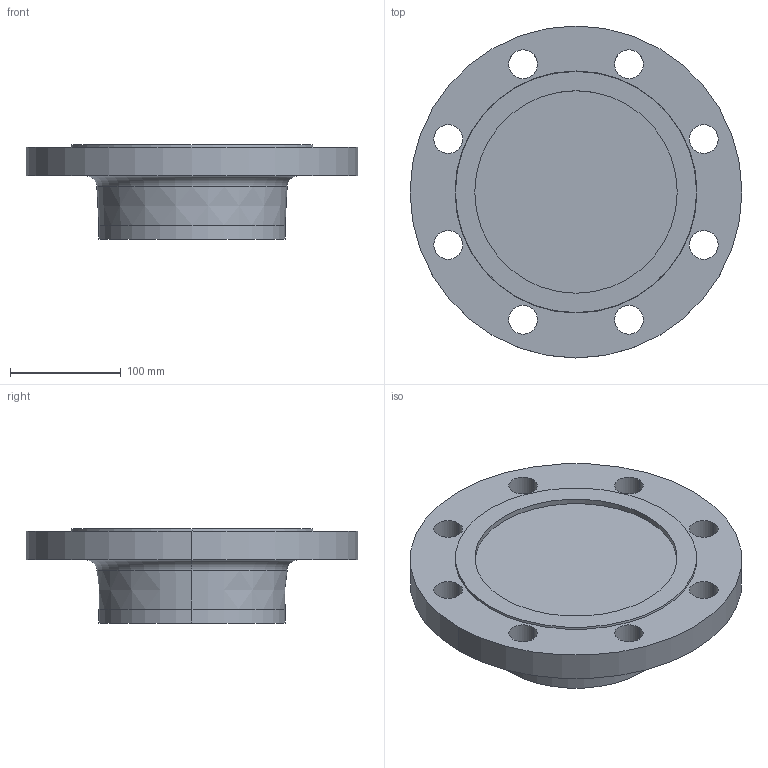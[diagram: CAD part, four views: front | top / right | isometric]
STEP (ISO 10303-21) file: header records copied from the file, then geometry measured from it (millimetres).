
FILE_DESCRIPTION (( 'STEP AP214' ), '1' );
FILE_NAME ('PN40 DN150 Type 21(ii) - Type G Face.STEP', '2019-01-02T23:05:37', ( '' ), ( '' ), 'SwSTEP 2.0', 'SolidWorks 2019', '' );
FILE_SCHEMA (( 'AUTOMOTIVE_DESIGN' ));
Length unit declared in the file: millimetre
Products named in the file (1): PN40 DN150 Type 21(ii) - Type G Face
Bounding box: 300 x 300 x 85 mm (x, y, z)
Volume: 2977588 mm3; surface area: 205613.4 mm2
Topology: 1 solids, 1 shells, 35 faces, 84 edges, 54 vertices
Faces by surface type: cylinder 22, plane 5, torus 4, cone 4
Entity records: 1114 total; most frequent: DIRECTION 214, CARTESIAN_POINT 174, ORIENTED_EDGE 168, AXIS2_PLACEMENT_3D 94, EDGE_CURVE 84, CIRCLE 58, EDGE_LOOP 54, VERTEX_POINT 54
